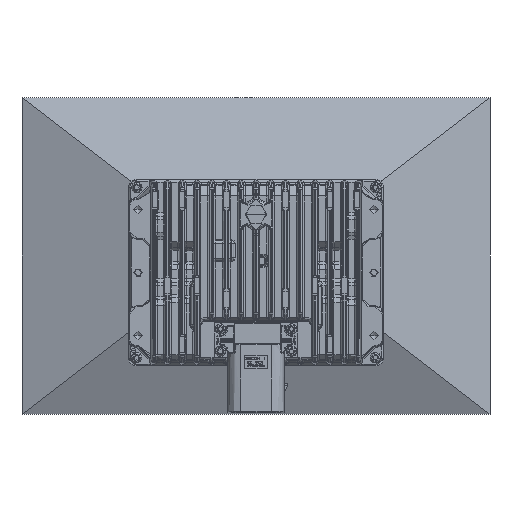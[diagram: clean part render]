
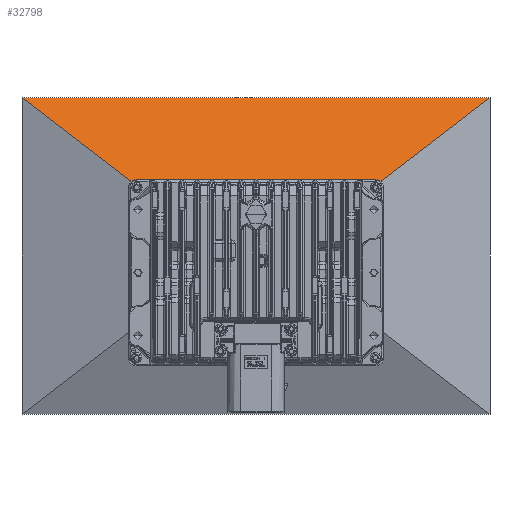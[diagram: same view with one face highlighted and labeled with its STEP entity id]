
A CAD part, top view. The second image highlights one B-rep face of the part: STEP entity #32798.
In plain terms, the highlighted planar face has unit normal (0, 0.399, 0.917) as drawn and (0, 0.399, -0.917) by its records, which use the part's own axes.
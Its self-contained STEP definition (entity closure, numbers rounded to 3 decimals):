
#16604 = CARTESIAN_POINT ( 'NONE',  ( -27.5, 13., 0. ) ) ;
#22189 = CARTESIAN_POINT ( 'NONE',  ( 87.274, 58.997, 20. ) ) ;
#27925 = PLANE ( 'NONE',  #236205 ) ;
#31319 = VECTOR ( 'NONE', #292604, 1000. ) ;
#32798 = ADVANCED_FACE ( 'NONE', ( #236305 ), #27925, .T. ) ;
#36496 = LINE ( 'NONE', #189545, #31319 ) ;
#48783 = EDGE_LOOP ( 'NONE', ( #103988, #178429, #192688, #135677 ) ) ;
#50727 = VECTOR ( 'NONE', #115342, 1000. ) ;
#57311 = CARTESIAN_POINT ( 'NONE',  ( -27.5, 13., 0. ) ) ;
#62137 = VECTOR ( 'NONE', #208192, 1000. ) ;
#73232 = LINE ( 'NONE', #116961, #62137 ) ;
#77474 = EDGE_CURVE ( 'NONE', #197224, #247073, #36496, .T. ) ;
#103988 = ORIENTED_EDGE ( 'NONE', *, *, #279480, .T. ) ;
#111217 = LINE ( 'NONE', #16604, #267062 ) ;
#112420 = CARTESIAN_POINT ( 'NONE',  ( 27.5, 13., 0. ) ) ;
#115342 = DIRECTION ( 'NONE',  ( 1., 0., 0. ) ) ;
#116961 = CARTESIAN_POINT ( 'NONE',  ( -87.274, 13., 0. ) ) ;
#120857 = VERTEX_POINT ( 'NONE', #247705 ) ;
#135677 = ORIENTED_EDGE ( 'NONE', *, *, #269460, .T. ) ;
#137759 = LINE ( 'NONE', #229107, #50727 ) ;
#141946 = DIRECTION ( 'NONE',  ( 0., 0.399, -0.917 ) ) ;
#178429 = ORIENTED_EDGE ( 'NONE', *, *, #277608, .T. ) ;
#185455 = CARTESIAN_POINT ( 'NONE',  ( -87.274, 13., 0. ) ) ;
#189545 = CARTESIAN_POINT ( 'NONE',  ( 87.274, 58.997, 20. ) ) ;
#192688 = ORIENTED_EDGE ( 'NONE', *, *, #77474, .T. ) ;
#197224 = VERTEX_POINT ( 'NONE', #22189 ) ;
#197675 = VERTEX_POINT ( 'NONE', #57311 ) ;
#208192 = DIRECTION ( 'NONE',  ( -1., 0., 0. ) ) ;
#229107 = CARTESIAN_POINT ( 'NONE',  ( 0., 58.997, 20. ) ) ;
#236205 = AXIS2_PLACEMENT_3D ( 'NONE', #185455, #141946, #276720 ) ;
#236305 = FACE_OUTER_BOUND ( 'NONE', #48783, .T. ) ;
#247073 = VERTEX_POINT ( 'NONE', #112420 ) ;
#247705 = CARTESIAN_POINT ( 'NONE',  ( -87.274, 58.997, 20. ) ) ;
#267062 = VECTOR ( 'NONE', #272850, 1000. ) ;
#269460 = EDGE_CURVE ( 'NONE', #247073, #197675, #73232, .T. ) ;
#272850 = DIRECTION ( 'NONE',  ( -0.766, 0.589, 0.256 ) ) ;
#276720 = DIRECTION ( 'NONE',  ( 0., 0.917, 0.399 ) ) ;
#277608 = EDGE_CURVE ( 'NONE', #120857, #197224, #137759, .T. ) ;
#279480 = EDGE_CURVE ( 'NONE', #197675, #120857, #111217, .T. ) ;
#292604 = DIRECTION ( 'NONE',  ( -0.766, -0.589, -0.256 ) ) ;
